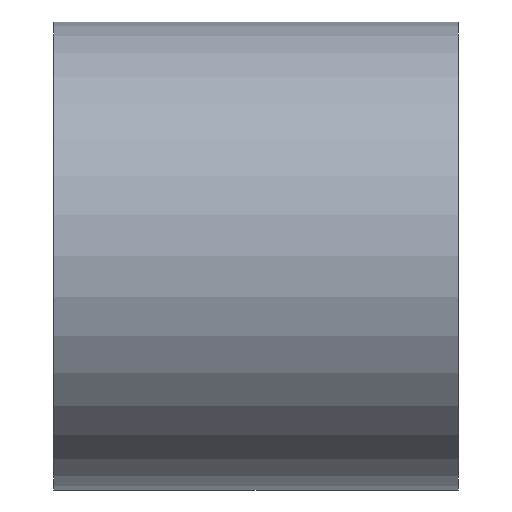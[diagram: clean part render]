
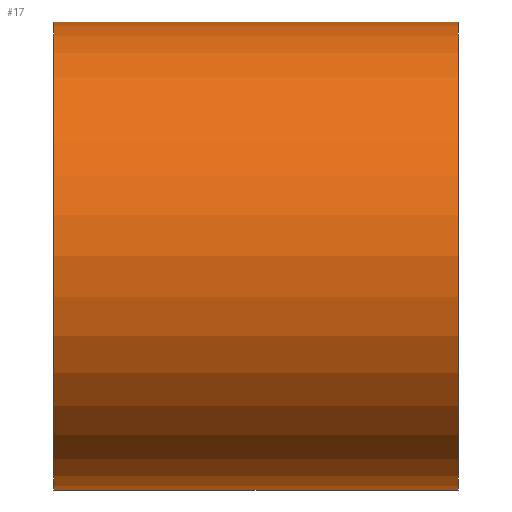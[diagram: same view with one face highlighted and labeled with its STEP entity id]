
A CAD part, left-side view. The second image highlights one B-rep face of the part: STEP entity #17.
In plain terms, the highlighted cylindrical face has radius 22 mm (diameter 44 mm), a full revolution.
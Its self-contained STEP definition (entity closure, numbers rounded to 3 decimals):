
#17 = ADVANCED_FACE('',(#18),#31,.T.);
#18 = FACE_BOUND('',#19,.T.);
#19 = EDGE_LOOP('',(#20,#54,#77,#104));
#20 = ORIENTED_EDGE('',*,*,#21,.F.);
#21 = EDGE_CURVE('',#22,#22,#24,.T.);
#22 = VERTEX_POINT('',#23);
#23 = CARTESIAN_POINT('',(280.,-47.913,60.));
#24 = SURFACE_CURVE('',#25,(#30,#42),.PCURVE_S1.);
#25 = CIRCLE('',#26,22.);
#26 = AXIS2_PLACEMENT_3D('',#27,#28,#29);
#27 = CARTESIAN_POINT('',(280.,-47.913,38.));
#28 = DIRECTION('',(0.,1.,0.));
#29 = DIRECTION('',(0.,-0.,1.));
#30 = PCURVE('',#31,#36);
#31 = CYLINDRICAL_SURFACE('',#32,22.);
#32 = AXIS2_PLACEMENT_3D('',#33,#34,#35);
#33 = CARTESIAN_POINT('',(280.,-85.913,38.));
#34 = DIRECTION('',(0.,1.,0.));
#35 = DIRECTION('',(0.,-0.,1.));
#36 = DEFINITIONAL_REPRESENTATION('',(#37),#41);
#37 = LINE('',#38,#39);
#38 = CARTESIAN_POINT('',(0.,38.));
#39 = VECTOR('',#40,1.);
#40 = DIRECTION('',(1.,0.));
#41 = ( GEOMETRIC_REPRESENTATION_CONTEXT(2) 
PARAMETRIC_REPRESENTATION_CONTEXT() REPRESENTATION_CONTEXT('2D SPACE',''
  ) );
#42 = PCURVE('',#43,#48);
#43 = PLANE('',#44);
#44 = AXIS2_PLACEMENT_3D('',#45,#46,#47);
#45 = CARTESIAN_POINT('',(280.,-47.913,38.));
#46 = DIRECTION('',(0.,1.,0.));
#47 = DIRECTION('',(0.,-0.,1.));
#48 = DEFINITIONAL_REPRESENTATION('',(#49),#53);
#49 = CIRCLE('',#50,22.);
#50 = AXIS2_PLACEMENT_2D('',#51,#52);
#51 = CARTESIAN_POINT('',(0.,0.));
#52 = DIRECTION('',(1.,0.));
#53 = ( GEOMETRIC_REPRESENTATION_CONTEXT(2) 
PARAMETRIC_REPRESENTATION_CONTEXT() REPRESENTATION_CONTEXT('2D SPACE',''
  ) );
#54 = ORIENTED_EDGE('',*,*,#55,.F.);
#55 = EDGE_CURVE('',#56,#22,#58,.T.);
#56 = VERTEX_POINT('',#57);
#57 = CARTESIAN_POINT('',(280.,-85.913,60.));
#58 = SEAM_CURVE('',#59,(#63,#70),.PCURVE_S1.);
#59 = LINE('',#60,#61);
#60 = CARTESIAN_POINT('',(280.,-85.913,60.));
#61 = VECTOR('',#62,1.);
#62 = DIRECTION('',(0.,1.,0.));
#63 = PCURVE('',#31,#64);
#64 = DEFINITIONAL_REPRESENTATION('',(#65),#69);
#65 = LINE('',#66,#67);
#66 = CARTESIAN_POINT('',(6.283,-0.));
#67 = VECTOR('',#68,1.);
#68 = DIRECTION('',(0.,1.));
#69 = ( GEOMETRIC_REPRESENTATION_CONTEXT(2) 
PARAMETRIC_REPRESENTATION_CONTEXT() REPRESENTATION_CONTEXT('2D SPACE',''
  ) );
#70 = PCURVE('',#31,#71);
#71 = DEFINITIONAL_REPRESENTATION('',(#72),#76);
#72 = LINE('',#73,#74);
#73 = CARTESIAN_POINT('',(0.,-0.));
#74 = VECTOR('',#75,1.);
#75 = DIRECTION('',(0.,1.));
#76 = ( GEOMETRIC_REPRESENTATION_CONTEXT(2) 
PARAMETRIC_REPRESENTATION_CONTEXT() REPRESENTATION_CONTEXT('2D SPACE',''
  ) );
#77 = ORIENTED_EDGE('',*,*,#78,.T.);
#78 = EDGE_CURVE('',#56,#56,#79,.T.);
#79 = SURFACE_CURVE('',#80,(#85,#92),.PCURVE_S1.);
#80 = CIRCLE('',#81,22.);
#81 = AXIS2_PLACEMENT_3D('',#82,#83,#84);
#82 = CARTESIAN_POINT('',(280.,-85.913,38.));
#83 = DIRECTION('',(0.,1.,0.));
#84 = DIRECTION('',(0.,-0.,1.));
#85 = PCURVE('',#31,#86);
#86 = DEFINITIONAL_REPRESENTATION('',(#87),#91);
#87 = LINE('',#88,#89);
#88 = CARTESIAN_POINT('',(0.,0.));
#89 = VECTOR('',#90,1.);
#90 = DIRECTION('',(1.,0.));
#91 = ( GEOMETRIC_REPRESENTATION_CONTEXT(2) 
PARAMETRIC_REPRESENTATION_CONTEXT() REPRESENTATION_CONTEXT('2D SPACE',''
  ) );
#92 = PCURVE('',#93,#98);
#93 = PLANE('',#94);
#94 = AXIS2_PLACEMENT_3D('',#95,#96,#97);
#95 = CARTESIAN_POINT('',(280.,-85.913,38.));
#96 = DIRECTION('',(0.,1.,0.));
#97 = DIRECTION('',(0.,-0.,1.));
#98 = DEFINITIONAL_REPRESENTATION('',(#99),#103);
#99 = CIRCLE('',#100,22.);
#100 = AXIS2_PLACEMENT_2D('',#101,#102);
#101 = CARTESIAN_POINT('',(0.,0.));
#102 = DIRECTION('',(1.,0.));
#103 = ( GEOMETRIC_REPRESENTATION_CONTEXT(2) 
PARAMETRIC_REPRESENTATION_CONTEXT() REPRESENTATION_CONTEXT('2D SPACE',''
  ) );
#104 = ORIENTED_EDGE('',*,*,#55,.T.);
